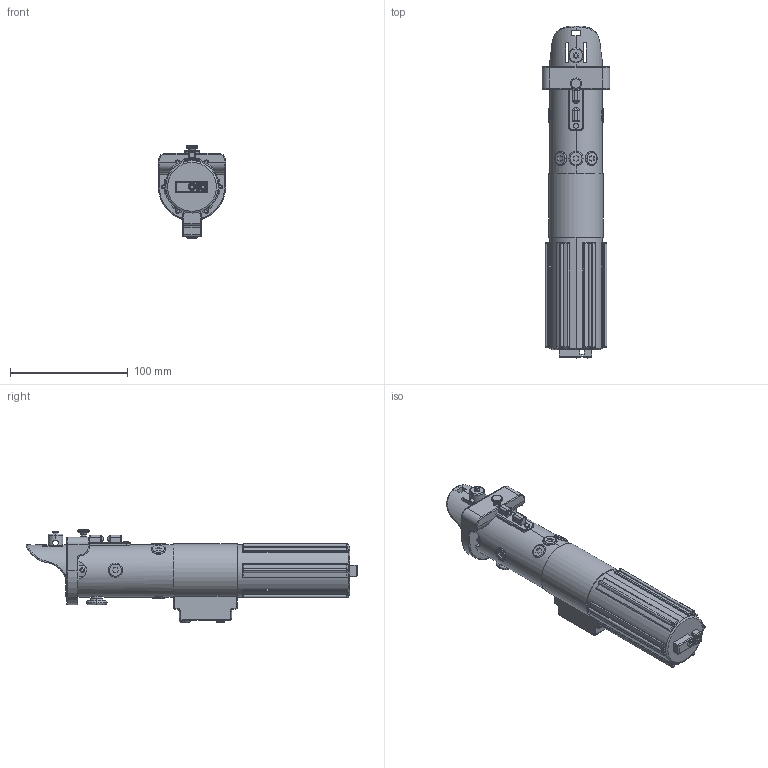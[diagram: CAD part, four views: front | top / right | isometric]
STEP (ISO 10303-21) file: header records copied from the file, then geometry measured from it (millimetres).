
FILE_DESCRIPTION (( 'STEP AP214' ), '1' );
FILE_NAME ('Darth Vadar (Lightsaber) (Cue Stick).STEP', '2017-01-19T17:05:33', ( '' ), ( '' ), 'SwSTEP 2.0', 'SolidWorks 2016', '' );
FILE_SCHEMA (( 'AUTOMOTIVE_DESIGN' ));
Length unit declared in the file: inch
Products named in the file (1): Darth Vadar (Lightsaber) (Cue Stick)
Bounding box: 57.15 x 281.37 x 78.58 mm (x, y, z)
Volume: 440575.1 mm3; surface area: 56353.8 mm2
Topology: 1 solids, 13 shells, 591 faces, 1395 edges, 861 vertices
Faces by surface type: cylinder 259, plane 187, torus 137, bspline 5, cone 3
Entity records: 25305 total; most frequent: CARTESIAN_POINT 5770, DIRECTION 3009, ORIENTED_EDGE 2788, EDGE_CURVE 1394, AXIS2_PLACEMENT_3D 1214, VERTEX_POINT 860, EDGE_LOOP 630, CIRCLE 627
